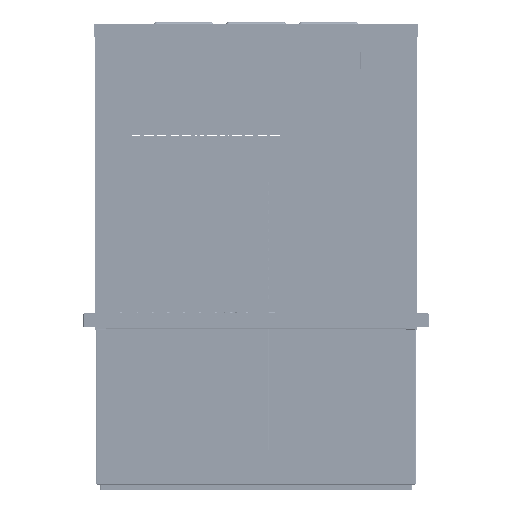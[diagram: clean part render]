
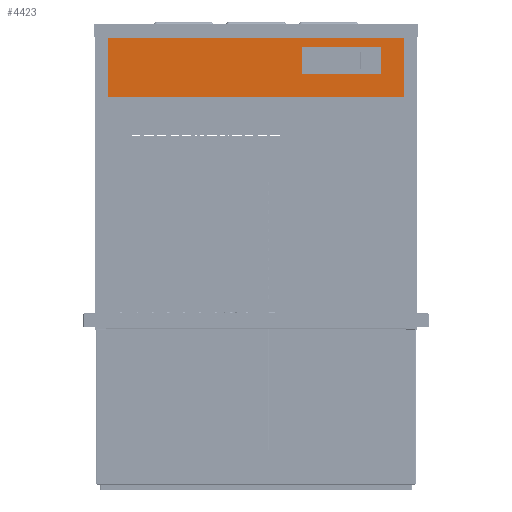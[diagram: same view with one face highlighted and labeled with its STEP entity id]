
A CAD part, front view. The second image highlights one B-rep face of the part: STEP entity #4423.
In plain terms, the highlighted planar face has unit normal (0, -1, 0) as drawn and (1, 0, 0) by its records, which use the part's own axes.
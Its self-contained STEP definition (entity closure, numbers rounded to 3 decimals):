
#4423 = ADVANCED_FACE( '', ( #13816, #13817 ), #13818, .F. );
#13816 = FACE_BOUND( '', #23710, .T. );
#13817 = FACE_OUTER_BOUND( '', #23711, .T. );
#13818 = PLANE( '', #23712 );
#23710 = EDGE_LOOP( '', ( #56736, #56737, #56738, #56739 ) );
#23711 = EDGE_LOOP( '', ( #56740, #56741, #56742, #56743, #56744, #56745, #56746, #56747, #56748, #56749 ) );
#23712 = AXIS2_PLACEMENT_3D( '', #56750, #56751, #56752 );
#56736 = ORIENTED_EDGE( '', *, *, #68312, .F. );
#56737 = ORIENTED_EDGE( '', *, *, #68313, .F. );
#56738 = ORIENTED_EDGE( '', *, *, #68314, .F. );
#56739 = ORIENTED_EDGE( '', *, *, #68315, .F. );
#56740 = ORIENTED_EDGE( '', *, *, #68316, .T. );
#56741 = ORIENTED_EDGE( '', *, *, #66995, .T. );
#56742 = ORIENTED_EDGE( '', *, *, #68317, .T. );
#56743 = ORIENTED_EDGE( '', *, *, #68318, .F. );
#56744 = ORIENTED_EDGE( '', *, *, #68319, .F. );
#56745 = ORIENTED_EDGE( '', *, *, #68320, .F. );
#56746 = ORIENTED_EDGE( '', *, *, #68321, .T. );
#56747 = ORIENTED_EDGE( '', *, *, #68322, .T. );
#56748 = ORIENTED_EDGE( '', *, *, #68323, .F. );
#56749 = ORIENTED_EDGE( '', *, *, #68324, .F. );
#56750 = CARTESIAN_POINT( '', ( 20., 234.2, 217.25 ) );
#56751 = DIRECTION( '', ( -1., 0., 0. ) );
#56752 = DIRECTION( '', ( 0., 0., 1. ) );
#66995 = EDGE_CURVE( '', #84554, #84555, #84556, .T. );
#68312 = EDGE_CURVE( '', #86544, #86545, #86546, .T. );
#68313 = EDGE_CURVE( '', #86547, #86544, #86548, .T. );
#68314 = EDGE_CURVE( '', #86549, #86547, #86550, .T. );
#68315 = EDGE_CURVE( '', #86545, #86549, #86551, .T. );
#68316 = EDGE_CURVE( '', #86552, #84554, #86553, .T. );
#68317 = EDGE_CURVE( '', #84555, #86554, #86555, .T. );
#68318 = EDGE_CURVE( '', #86556, #86554, #86557, .T. );
#68319 = EDGE_CURVE( '', #86558, #86556, #86559, .T. );
#68320 = EDGE_CURVE( '', #86560, #86558, #86561, .F. );
#68321 = EDGE_CURVE( '', #86560, #86562, #86563, .T. );
#68322 = EDGE_CURVE( '', #86562, #86564, #86565, .F. );
#68323 = EDGE_CURVE( '', #86566, #86564, #86567, .T. );
#68324 = EDGE_CURVE( '', #86552, #86566, #86568, .T. );
#84554 = VERTEX_POINT( '', #111119 );
#84555 = VERTEX_POINT( '', #111120 );
#84556 = LINE( '', #111121, #111122 );
#86544 = VERTEX_POINT( '', #114426 );
#86545 = VERTEX_POINT( '', #114427 );
#86546 = LINE( '', #114428, #114429 );
#86547 = VERTEX_POINT( '', #114430 );
#86548 = LINE( '', #114431, #114432 );
#86549 = VERTEX_POINT( '', #114433 );
#86550 = LINE( '', #114434, #114435 );
#86551 = LINE( '', #114436, #114437 );
#86552 = VERTEX_POINT( '', #114438 );
#86553 = LINE( '', #114439, #114440 );
#86554 = VERTEX_POINT( '', #114441 );
#86555 = LINE( '', #114442, #114443 );
#86556 = VERTEX_POINT( '', #114444 );
#86557 = LINE( '', #114445, #114446 );
#86558 = VERTEX_POINT( '', #114447 );
#86559 = LINE( '', #114448, #114449 );
#86560 = VERTEX_POINT( '', #114450 );
#86561 = LINE( '', #114451, #114452 );
#86562 = VERTEX_POINT( '', #114453 );
#86563 = LINE( '', #114454, #114455 );
#86564 = VERTEX_POINT( '', #114456 );
#86565 = LINE( '', #114457, #114458 );
#86566 = VERTEX_POINT( '', #114459 );
#86567 = LINE( '', #114460, #114461 );
#86568 = LINE( '', #114462, #114463 );
#111119 = CARTESIAN_POINT( '', ( 20., -234.198, 123.586 ) );
#111120 = CARTESIAN_POINT( '', ( 20., 234.198, 123.586 ) );
#111121 = CARTESIAN_POINT( '', ( 20., -234.198, 123.586 ) );
#111122 = VECTOR( '', #127323, 1000. );
#114426 = CARTESIAN_POINT( '', ( 20., 124.2, 161.95 ) );
#114427 = CARTESIAN_POINT( '', ( 20., 194.2, 161.95 ) );
#114428 = CARTESIAN_POINT( '', ( 20., 124.2, 161.95 ) );
#114429 = VECTOR( '', #128640, 1000. );
#114430 = CARTESIAN_POINT( '', ( 20., 124.2, 201.95 ) );
#114431 = CARTESIAN_POINT( '', ( 20., 124.2, 201.95 ) );
#114432 = VECTOR( '', #128641, 1000. );
#114433 = CARTESIAN_POINT( '', ( 20., 194.2, 201.95 ) );
#114434 = CARTESIAN_POINT( '', ( 20., 194.2, 201.95 ) );
#114435 = VECTOR( '', #128642, 1000. );
#114436 = CARTESIAN_POINT( '', ( 20., 194.2, 161.95 ) );
#114437 = VECTOR( '', #128643, 1000. );
#114438 = CARTESIAN_POINT( '', ( 20., -234.198, 217.148 ) );
#114439 = CARTESIAN_POINT( '', ( 20., -234.198, 217.148 ) );
#114440 = VECTOR( '', #128644, 1000. );
#114441 = CARTESIAN_POINT( '', ( 20., 234.198, 217.148 ) );
#114442 = CARTESIAN_POINT( '', ( 20., 234.198, -217.148 ) );
#114443 = VECTOR( '', #128645, 1000. );
#114444 = CARTESIAN_POINT( '', ( 20., 234.198, 217.15 ) );
#114445 = CARTESIAN_POINT( '', ( 20., 234.198, 217.15 ) );
#114446 = VECTOR( '', #128646, 1000. );
#114447 = CARTESIAN_POINT( '', ( 20., 234.2, 217.15 ) );
#114448 = CARTESIAN_POINT( '', ( 20., 234.198, 217.15 ) );
#114449 = VECTOR( '', #128647, 1000. );
#114450 = CARTESIAN_POINT( '', ( 20., 234.2, 217.248 ) );
#114451 = CARTESIAN_POINT( '', ( 20., 234.2, 217.25 ) );
#114452 = VECTOR( '', #128648, 1000. );
#114453 = CARTESIAN_POINT( '', ( 20., -234.2, 217.248 ) );
#114454 = CARTESIAN_POINT( '', ( 20., 234.2, 217.248 ) );
#114455 = VECTOR( '', #128649, 1000. );
#114456 = CARTESIAN_POINT( '', ( 20., -234.2, 217.15 ) );
#114457 = CARTESIAN_POINT( '', ( 20., -234.2, 217.25 ) );
#114458 = VECTOR( '', #128650, 1000. );
#114459 = CARTESIAN_POINT( '', ( 20., -234.198, 217.15 ) );
#114460 = CARTESIAN_POINT( '', ( 20., -234.2, 217.15 ) );
#114461 = VECTOR( '', #128651, 1000. );
#114462 = CARTESIAN_POINT( '', ( 20., -234.198, -217.15 ) );
#114463 = VECTOR( '', #128652, 1000. );
#127323 = DIRECTION( '', ( 0., 1., 0. ) );
#128640 = DIRECTION( '', ( 0., 1., 0. ) );
#128641 = DIRECTION( '', ( 0., 0., -1. ) );
#128642 = DIRECTION( '', ( 0., -1., 0. ) );
#128643 = DIRECTION( '', ( 0., 0., 1. ) );
#128644 = DIRECTION( '', ( 0., 0., -1. ) );
#128645 = DIRECTION( '', ( 0., 0., 1. ) );
#128646 = DIRECTION( '', ( 0., 0., -1. ) );
#128647 = DIRECTION( '', ( 0., -1., 0. ) );
#128648 = DIRECTION( '', ( 0., 0., 1. ) );
#128649 = DIRECTION( '', ( 0., -1., 0. ) );
#128650 = DIRECTION( '', ( 0., 0., 1. ) );
#128651 = DIRECTION( '', ( 0., -1., 0. ) );
#128652 = DIRECTION( '', ( 0., 0., 1. ) );
